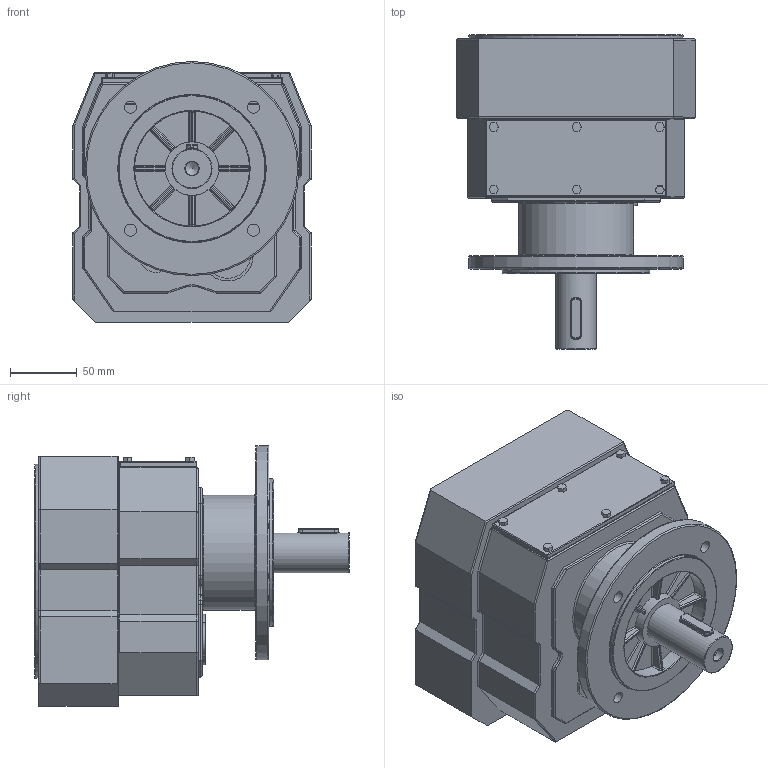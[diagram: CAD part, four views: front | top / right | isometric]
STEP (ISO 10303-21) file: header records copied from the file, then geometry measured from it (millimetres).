
FILE_DESCRIPTION((''),'2;1');
FILE_NAME('D:\PAWEŁ\ZLECENIA\2011 DualSystem\Przekładnie DR\DR40\STEP\DRF40_fi 160.stp','2012-06-11T11:53:58',('admin'),(''),'Autodesk Inventor 2009','Autodesk Inventor 2009','');
FILE_SCHEMA(('AUTOMOTIVE_DESIGN { 1 0 10303 214 1 1 1 1 }'));
Length unit declared in the file: millimetre
Products named in the file (1): DRF40_fi 160
Bounding box: 178 x 235 x 195 mm (x, y, z)
Volume: 4024384.7 mm3; surface area: 220761.6 mm2
Topology: 2 solids, 2 shells, 410 faces, 987 edges, 586 vertices
Faces by surface type: cylinder 170, plane 164, bspline 43, torus 19, sphere 14
Full cylindrical faces by diameter (mm): 25.333 x1, 30 x1, 34 x1, 38 x1, 40 x1, 86 x2, 110 x1, 120 x1, 160 x2
Entity records: 14390 total; most frequent: CARTESIAN_POINT 4882, DIRECTION 1992, ORIENTED_EDGE 1888, EDGE_CURVE 944, AXIS2_PLACEMENT_3D 722, VERTEX_POINT 579, VECTOR 548, LINE 548
